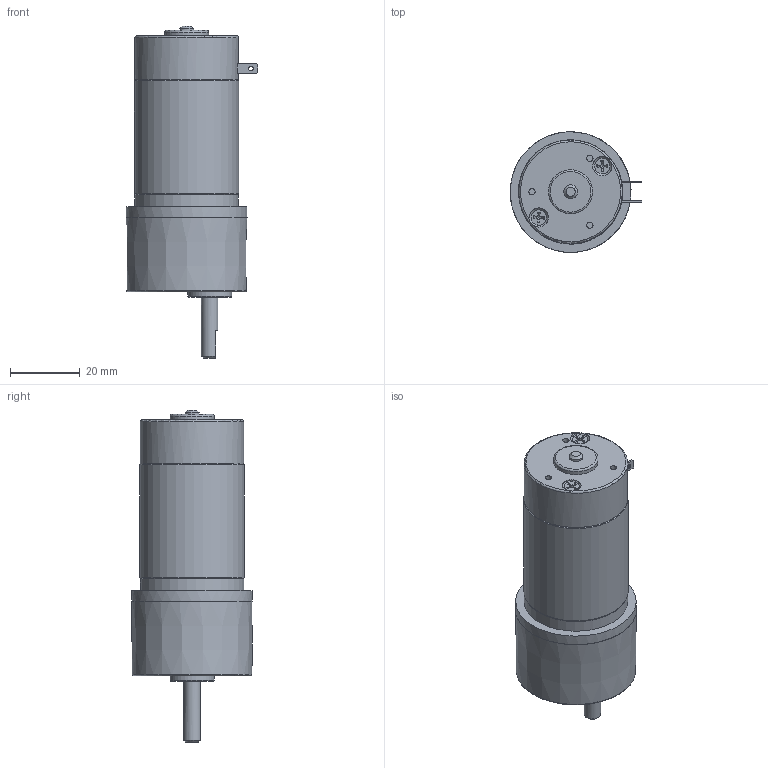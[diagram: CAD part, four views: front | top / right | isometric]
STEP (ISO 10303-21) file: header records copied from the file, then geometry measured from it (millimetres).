
FILE_DESCRIPTION((''),'2;1');
FILE_NAME('Z:\4_DC\새 폴더\RS3 SERIES\RS32ㅁㅁT(O~U).stp','2015-02-12T15:56:12',('kdhkdh'),(''),'Autodesk Inventor 2013','Autodesk Inventor 2013','');
FILE_SCHEMA(('AUTOMOTIVE_DESIGN { 1 0 10303 214 1 1 1 1 }'));
Length unit declared in the file: millimetre
Products named in the file (1): 부품2
Bounding box: 37.88 x 34.74 x 95.49 mm (x, y, z)
Volume: 58148.8 mm3; surface area: 10124.5 mm2
Topology: 1 solids, 6 shells, 205 faces, 522 edges, 343 vertices
Faces by surface type: plane 82, cylinder 56, cone 43, torus 24
Full cylindrical faces by diameter (mm): 1.362 x2, 1.8 x3, 2.156 x3, 2.5 x5, 2.6 x2, 2.7 x3, 4 x1, 4.4 x5, 4.76 x1, 5.5 x5, 12.7 x2, 29.8 x2, 30 x1, 34.7 x1
Entity records: 6256 total; most frequent: CARTESIAN_POINT 1725, DIRECTION 870, ORIENTED_EDGE 862, EDGE_CURVE 431, AXIS2_PLACEMENT_3D 377, VERTEX_POINT 314, EDGE_LOOP 295, FACE_OUTER_BOUND 205
